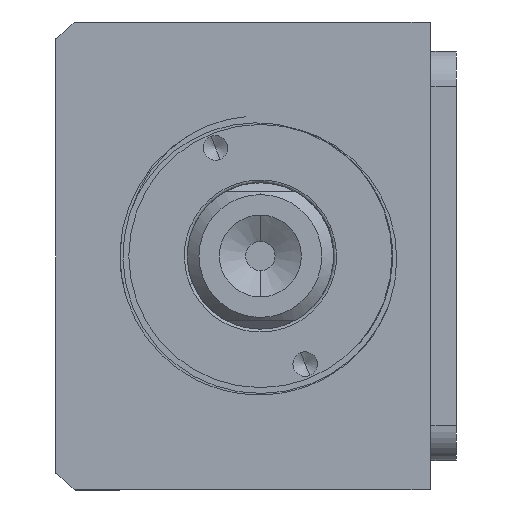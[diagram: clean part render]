
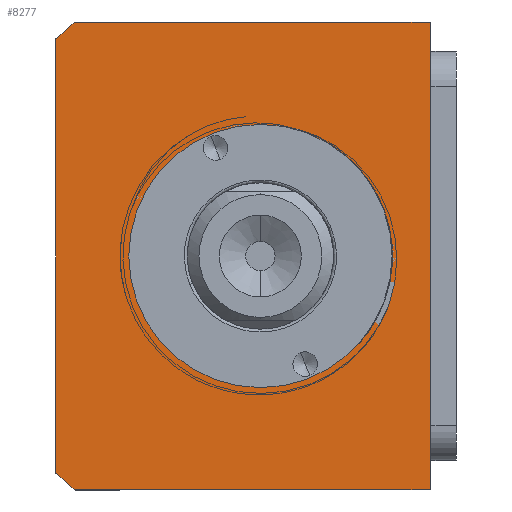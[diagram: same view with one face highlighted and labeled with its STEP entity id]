
A CAD part, front view. The second image highlights one B-rep face of the part: STEP entity #8277.
In plain terms, the highlighted planar face has unit normal (0, -1, 0) as drawn and (0, 0, 1) by its records, which use the part's own axes.
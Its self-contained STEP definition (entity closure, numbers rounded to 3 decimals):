
#3 = CARTESIAN_POINT ( 'NONE',  ( -40., -11.507, 150. ) ) ;
#38 = EDGE_CURVE ( 'NONE', #5210, #5477, #1329, .T. ) ;
#103 = CARTESIAN_POINT ( 'NONE',  ( 40., -72.145, 150. ) ) ;
#169 = CARTESIAN_POINT ( 'NONE',  ( 40., -11.507, 150. ) ) ;
#276 = CIRCLE ( 'NONE', #7897, 22.5 ) ;
#289 = AXIS2_PLACEMENT_3D ( 'NONE', #1155, #6554, #1940 ) ;
#483 = DIRECTION ( 'NONE',  ( 1., 0., 0. ) ) ;
#840 = EDGE_LOOP ( 'NONE', ( #4727, #4861 ) ) ;
#1155 = CARTESIAN_POINT ( 'NONE',  ( 0., -40.507, 150. ) ) ;
#1329 = LINE ( 'NONE', #6279, #7293 ) ;
#1478 = EDGE_CURVE ( 'NONE', #5477, #7702, #6102, .T. ) ;
#1509 = VERTEX_POINT ( 'NONE', #2800 ) ;
#1557 = PLANE ( 'NONE',  #9703 ) ;
#1656 = DIRECTION ( 'NONE',  ( -1., 0., 0. ) ) ;
#1715 = VERTEX_POINT ( 'NONE', #169 ) ;
#1940 = DIRECTION ( 'NONE',  ( 1., 0., 0. ) ) ;
#1996 = LINE ( 'NONE', #8686, #3809 ) ;
#2431 = ORIENTED_EDGE ( 'NONE', *, *, #3778, .T. ) ;
#2716 = VERTEX_POINT ( 'NONE', #103 ) ;
#2800 = CARTESIAN_POINT ( 'NONE',  ( 37.094, -75.507, 150. ) ) ;
#2894 = DIRECTION ( 'NONE',  ( 1., 0., 0. ) ) ;
#2970 = DIRECTION ( 'NONE',  ( 0., 0., 1. ) ) ;
#3002 = CARTESIAN_POINT ( 'NONE',  ( 0., -40.507, 150. ) ) ;
#3053 = DIRECTION ( 'NONE',  ( 0., 0., 1. ) ) ;
#3102 = VERTEX_POINT ( 'NONE', #7506 ) ;
#3111 = DIRECTION ( 'NONE',  ( 0., 0., 1. ) ) ;
#3377 = ORIENTED_EDGE ( 'NONE', *, *, #38, .T. ) ;
#3411 = ORIENTED_EDGE ( 'NONE', *, *, #7561, .T. ) ;
#3574 = VERTEX_POINT ( 'NONE', #3919 ) ;
#3601 = CARTESIAN_POINT ( 'NONE',  ( -37.094, -75.507, 150. ) ) ;
#3702 = CARTESIAN_POINT ( 'NONE',  ( 0., -40.507, 150. ) ) ;
#3778 = EDGE_CURVE ( 'NONE', #1715, #5210, #10057, .T. ) ;
#3809 = VECTOR ( 'NONE', #3972, 1000. ) ;
#3849 = EDGE_CURVE ( 'NONE', #2716, #1715, #1996, .T. ) ;
#3919 = CARTESIAN_POINT ( 'NONE',  ( 22.5, -40.507, 150. ) ) ;
#3945 = LINE ( 'NONE', #5133, #4194 ) ;
#3972 = DIRECTION ( 'NONE',  ( 0., 1., 0. ) ) ;
#3995 = ORIENTED_EDGE ( 'NONE', *, *, #1478, .T. ) ;
#4065 = FACE_OUTER_BOUND ( 'NONE', #6051, .T. ) ;
#4194 = VECTOR ( 'NONE', #483, 1000. ) ;
#4466 = DIRECTION ( 'NONE',  ( 1., 0., 0. ) ) ;
#4727 = ORIENTED_EDGE ( 'NONE', *, *, #9179, .F. ) ;
#4832 = ORIENTED_EDGE ( 'NONE', *, *, #3849, .T. ) ;
#4861 = ORIENTED_EDGE ( 'NONE', *, *, #8710, .F. ) ;
#5133 = CARTESIAN_POINT ( 'NONE',  ( -40., -75.507, 150. ) ) ;
#5210 = VERTEX_POINT ( 'NONE', #5352 ) ;
#5352 = CARTESIAN_POINT ( 'NONE',  ( -40., -11.507, 150. ) ) ;
#5477 = VERTEX_POINT ( 'NONE', #6272 ) ;
#5793 = CIRCLE ( 'NONE', #8239, 22.5 ) ;
#6051 = EDGE_LOOP ( 'NONE', ( #3377, #3995, #7035, #3411, #4832, #2431 ) ) ;
#6102 = CIRCLE ( 'NONE', #7652, 51. ) ;
#6162 = CARTESIAN_POINT ( 'NONE',  ( 0., 0., 150. ) ) ;
#6272 = CARTESIAN_POINT ( 'NONE',  ( -40., -72.145, 150. ) ) ;
#6279 = CARTESIAN_POINT ( 'NONE',  ( -40., -11.507, 150. ) ) ;
#6358 = FACE_BOUND ( 'NONE', #840, .T. ) ;
#6486 = DIRECTION ( 'NONE',  ( 0., -1., 0. ) ) ;
#6554 = DIRECTION ( 'NONE',  ( 0., 0., 1. ) ) ;
#7035 = ORIENTED_EDGE ( 'NONE', *, *, #7632, .T. ) ;
#7293 = VECTOR ( 'NONE', #6486, 1000. ) ;
#7506 = CARTESIAN_POINT ( 'NONE',  ( -22.5, -40.507, 150. ) ) ;
#7561 = EDGE_CURVE ( 'NONE', #1509, #2716, #8879, .T. ) ;
#7632 = EDGE_CURVE ( 'NONE', #7702, #1509, #3945, .T. ) ;
#7652 = AXIS2_PLACEMENT_3D ( 'NONE', #3002, #2970, #2894 ) ;
#7702 = VERTEX_POINT ( 'NONE', #3601 ) ;
#7712 = CARTESIAN_POINT ( 'NONE',  ( 0., -40.507, 150. ) ) ;
#7897 = AXIS2_PLACEMENT_3D ( 'NONE', #3702, #9206, #4466 ) ;
#7950 = VECTOR ( 'NONE', #1656, 1000. ) ;
#8239 = AXIS2_PLACEMENT_3D ( 'NONE', #7712, #3053, #8524 ) ;
#8277 = ADVANCED_FACE ( 'NONE', ( #6358, #4065 ), #1557, .T. ) ;
#8524 = DIRECTION ( 'NONE',  ( 1., 0., 0. ) ) ;
#8589 = DIRECTION ( 'NONE',  ( 1., 0., 0. ) ) ;
#8686 = CARTESIAN_POINT ( 'NONE',  ( 40., -11.507, 150. ) ) ;
#8710 = EDGE_CURVE ( 'NONE', #3102, #3574, #276, .T. ) ;
#8879 = CIRCLE ( 'NONE', #289, 51. ) ;
#9179 = EDGE_CURVE ( 'NONE', #3574, #3102, #5793, .T. ) ;
#9206 = DIRECTION ( 'NONE',  ( 0., 0., 1. ) ) ;
#9703 = AXIS2_PLACEMENT_3D ( 'NONE', #6162, #3111, #8589 ) ;
#10057 = LINE ( 'NONE', #3, #7950 ) ;
